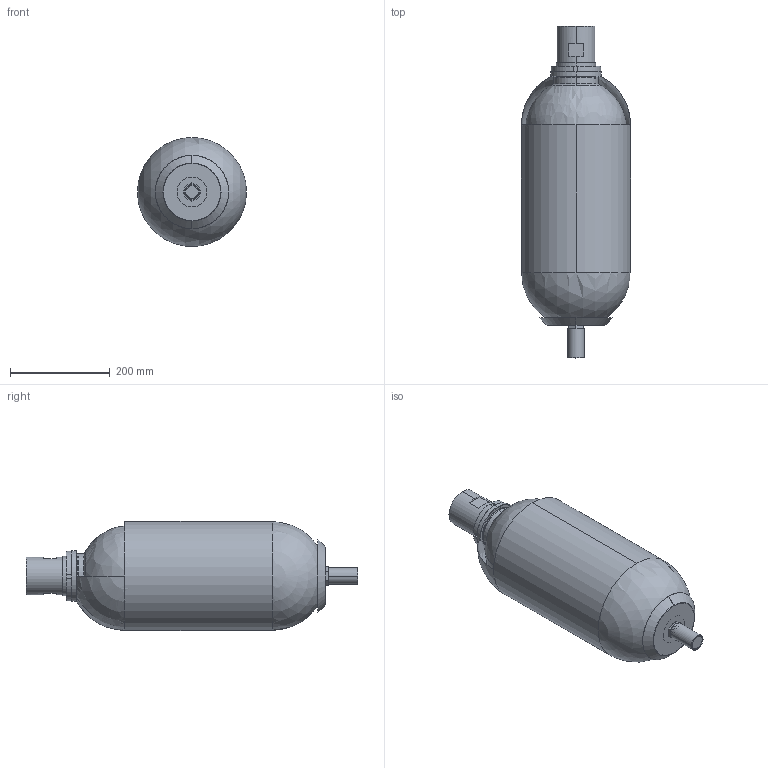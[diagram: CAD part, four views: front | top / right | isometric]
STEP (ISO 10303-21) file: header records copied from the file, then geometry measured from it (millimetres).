
FILE_DESCRIPTION((''),'2;1');
FILE_NAME('EHV_12_330_90.stp','2011-02-28T16:49:34',(''),(''),'Mechanical Desktop 2009','Mechanical Desktop 2009',', , ');
FILE_SCHEMA(('CONFIG_CONTROL_DESIGN'));
Length unit declared in the file: millimetre
Products named in the file (73): DESSIN12; AC108671-01125; PF108368-05200A; PF108368-05200; PF108368-05200|AVE_RENDER; PF108368-05200|AVE_GLOBAL; EC102958-00200A; EC102958-00200; BP102851-00200; BOUCHON DE PROTECTION; BOUCHON PLASTIQUE; CA108678-00190A; CA108678-00190; BC110298-01720; BE105544-01700A; BE105544-01700; EC100990-01200; EC100990-01200A; BM110296-01700; CB110082-01700A; CB110082-01700; GABARIT; VA108479-01626; VA108473-01626; VA108439-01600A; VA108439-01600; VA108439-01600|GABARIT; VA108437-01600; VA108437-01600A; VA108437-01600|GABARITMDT4; VA108437-01600|GABARIT; PI108438-01600; PI108438-01600A; PI108438-01600|GABARIT; RE100758-01200; RE100758-01200A; JT104172-00023A; JT104172-00023; JP102452-00026; JP102452-00026A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
Assembly tree (28 placements, depth 6):
  DESSIN12
    AC108671-01125
      PF108368-05200A
        PF108368-05200
        PF108368-05200|AVE_RENDER  x8
        PF108368-05200|AVE_GLOBAL
      EC102958-00200A
        EC102958-00200
      BP102851-00200
        BOUCHON DE PROTECTION
        BOUCHON PLASTIQUE
      CA108678-00190A
        CA108678-00190
      BC110298-01720
        BE105544-01700A
          BE105544-01700
        EC100990-01200
          EC100990-01200A
        BM110296-01700
          CB110082-01700A
            CB110082-01700
    GABARIT
  VA108479-01626
  VA108473-01626
  VA108439-01600A
  VA108439-01600
Bounding box: 219.1 x 667.2 x 219.1 mm (x, y, z)
Volume: 2851848 mm3; surface area: 896675.9 mm2
Topology: 8 solids, 8 shells, 207 faces, 495 edges, 301 vertices
Faces by surface type: cylinder 74, plane 53, cone 48, bspline 21, torus 8, sphere 3
Entity records: 8122 total; most frequent: CARTESIAN_POINT 1982, DIRECTION 1218, ORIENTED_EDGE 958, AXIS2_PLACEMENT_3D 522, EDGE_CURVE 479, VERTEX_POINT 297, CIRCLE 287, EDGE_LOOP 242
